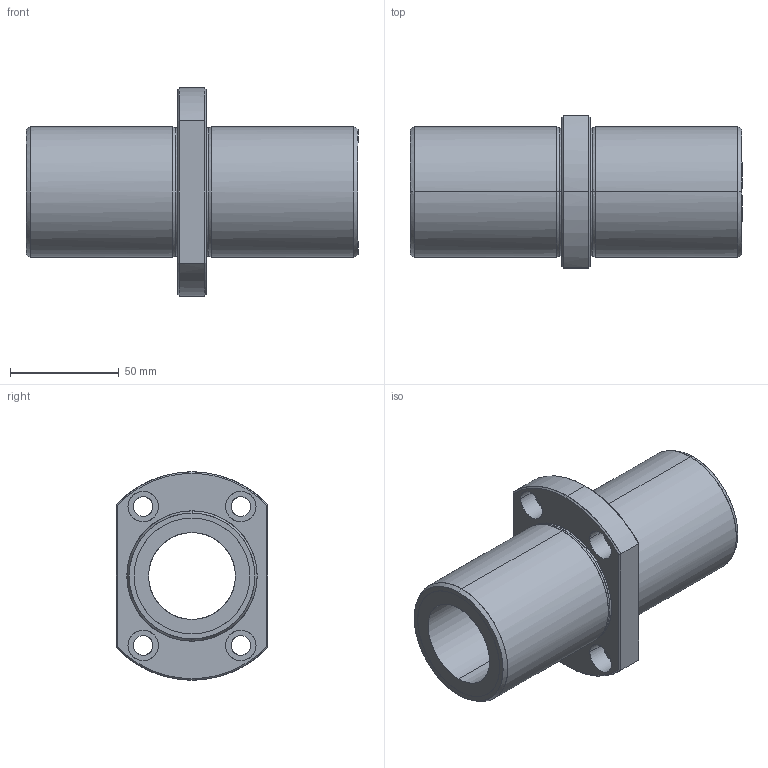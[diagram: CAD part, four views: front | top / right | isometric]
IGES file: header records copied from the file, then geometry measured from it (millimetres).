
Global section: file name: No Iges File Name specified; native system: AutoDesk Inventor R10; preprocessor: AutoDesk Inventor Iges Exporter R10; author: No Author specified; organization: No Organization specified; date: 20101211.160146; units: millimetre
Bounding box: 153 x 70 x 96 mm (x, y, z)
Surface area: 60131.9 mm2 (no closed solid volume)
Topology: 0 solids, 0 shells, 66 faces, 416 edges, 416 vertices
Faces by surface type: bspline 66
